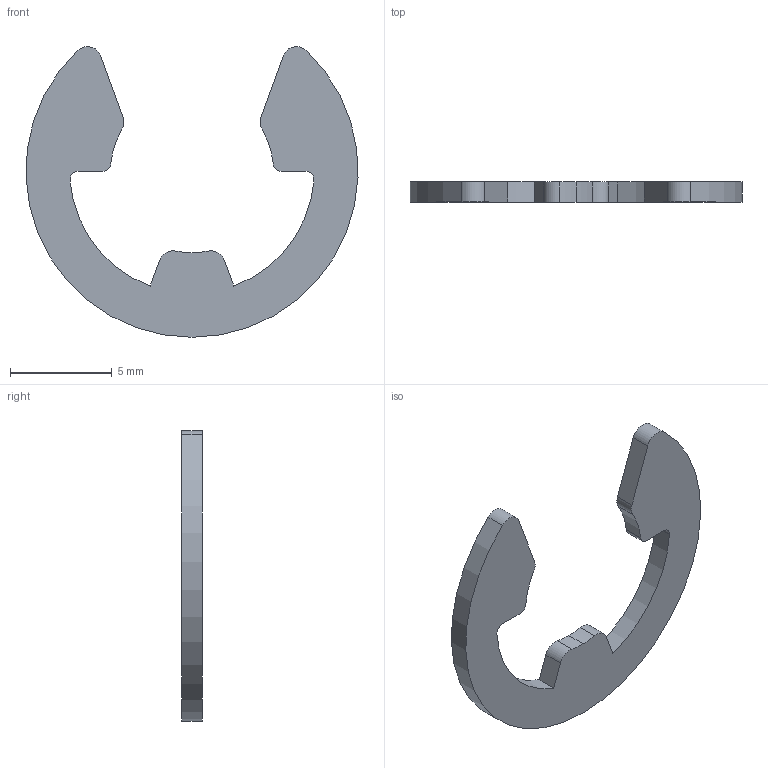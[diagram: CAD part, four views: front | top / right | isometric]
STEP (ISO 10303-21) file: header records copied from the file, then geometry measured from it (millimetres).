
FILE_DESCRIPTION (( 'STEP AP203' ), '1' );
FILE_NAME ('P0382.080-PH.step', '2019-07-25T21:00:45', ( '' ), ( '' ), 'SwSTEP 2.0', 'SolidWorks 2017', '' );
FILE_SCHEMA (( 'CONFIG_CONTROL_DESIGN' ));
Length unit declared in the file: millimetre
Products named in the file (1): P0382.080-PH
Bounding box: 16.29 x 1 x 14.25 mm (x, y, z)
Volume: 96.3 mm3; surface area: 270.4 mm2
Topology: 1 solids, 1 shells, 26 faces, 72 edges, 48 vertices
Faces by surface type: cylinder 18, plane 8
Entity records: 929 total; most frequent: DIRECTION 162, CARTESIAN_POINT 147, ORIENTED_EDGE 144, EDGE_CURVE 72, AXIS2_PLACEMENT_3D 63, VERTEX_POINT 48, CIRCLE 36, VECTOR 36
